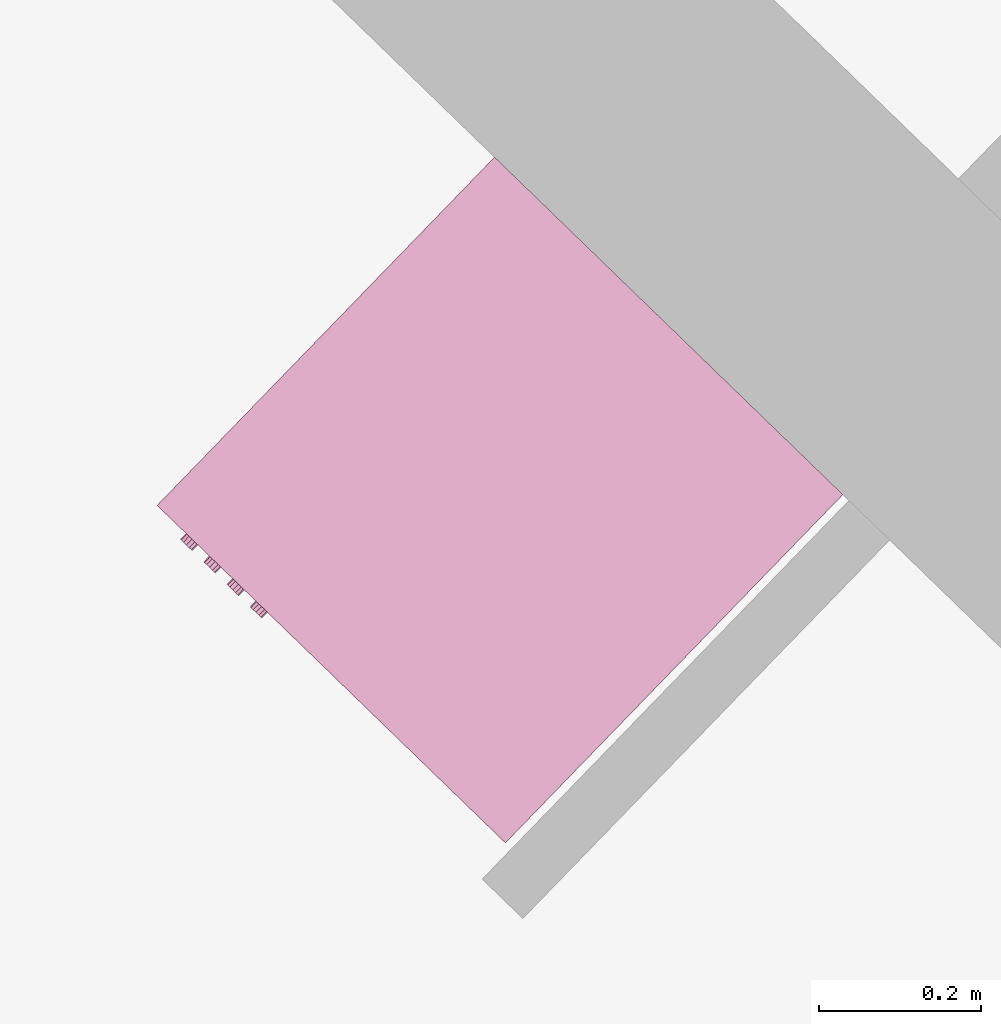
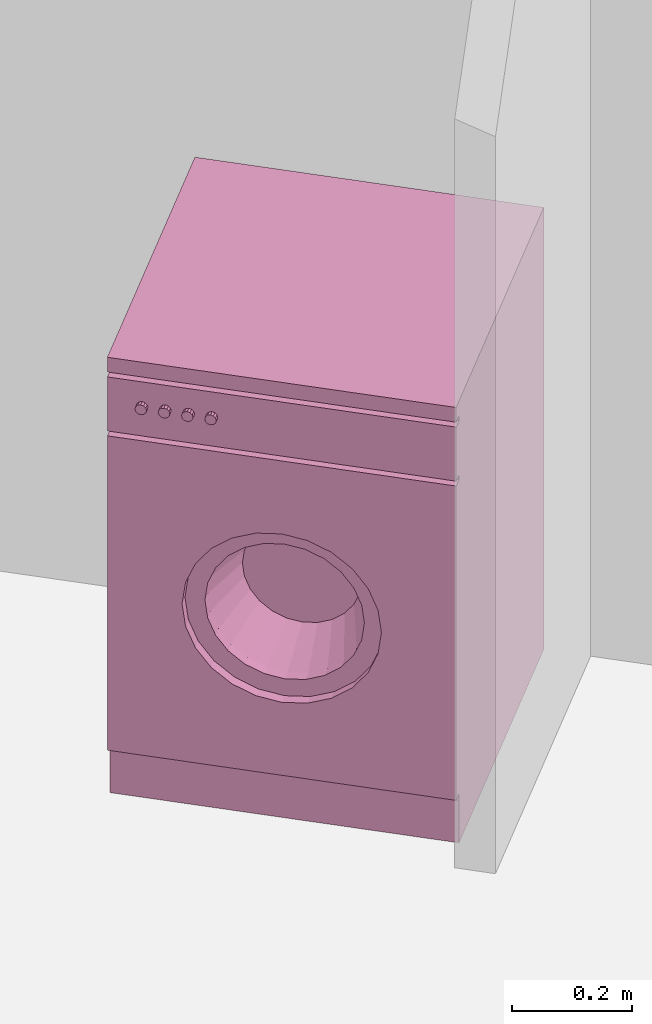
# One storey, part 148 of 195: 1 furnishing.
"""IFC2X3 building model written with IfcOpenShell, lengths in metres."""

from ifc_helpers import new_model, entity, si_unit, converted_unit, derived_unit, money_unit, direction, frame, origin_with_axes, place, context, subcontext, project, spatial, open_shell, faceted_brep, surface_model, source, transform, mapped, type_object, element, save


model = new_model("IFC2X3")

# Units and contexts
model_context = context("Model", 3, precision=1e-05, world=origin_with_axes(), true_north=direction((0.0, 1.0)))
body_context = subcontext(model_context, "Body", "Model", "MODEL_VIEW")
ifc_project = project(units=[si_unit("LENGTHUNIT", "METRE"), si_unit("AREAUNIT", "SQUARE_METRE"), si_unit("VOLUMEUNIT", "CUBIC_METRE"), converted_unit("PLANEANGLEUNIT", "DEGREE", entity("IfcPlaneAngleMeasure", 0.0174532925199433), si_unit("PLANEANGLEUNIT", "RADIAN"), dimensions=[0, 0, 0, 0, 0, 0, 0]), money_unit("CHF"), converted_unit("TIMEUNIT", "Year", entity("IfcTimeMeasure", 31557600.0), si_unit("TIMEUNIT", "SECOND"), dimensions=[0, 0, 1, 0, 0, 0, 0]), si_unit("MASSUNIT", "GRAM", prefix="KILO"), si_unit("THERMODYNAMICTEMPERATUREUNIT", "DEGREE_CELSIUS"), si_unit("LUMINOUSINTENSITYUNIT", "LUMEN"), si_unit("ENERGYUNIT", "JOULE", prefix="MEGA"), derived_unit("THERMALCONDUCTANCEUNIT", [(si_unit("POWERUNIT", "WATT"), 1), (si_unit("LENGTHUNIT", "METRE"), -1), (si_unit("THERMODYNAMICTEMPERATUREUNIT", "KELVIN"), -1)]), derived_unit("SPECIFICHEATCAPACITYUNIT", [(si_unit("ENERGYUNIT", "JOULE"), 1), (si_unit("MASSUNIT", "GRAM", prefix="KILO"), -1), (si_unit("THERMODYNAMICTEMPERATUREUNIT", "KELVIN"), -1)]), derived_unit("MASSDENSITYUNIT", [(si_unit("MASSUNIT", "GRAM", prefix="KILO"), 1), (si_unit("VOLUMEUNIT", "CUBIC_METRE"), -1)])], contexts=[model_context])

# Site, building, storey
site_placement = place(None, origin_with_axes())
site = spatial("IfcSite", under=ifc_project, at=site_placement, Name="Site", CompositionType="ELEMENT")
building_placement = place(site_placement, origin_with_axes())
building = spatial("IfcBuilding", under=site, at=building_placement, Name="Bâtiment", CompositionType="ELEMENT")
storey_placement = place(building_placement, origin_with_axes())
storey = spatial("IfcBuildingStorey", under=building, at=storey_placement, Name="rdc", CompositionType="ELEMENT", Elevation=0.0)

# Furnishing
furnishing_element_type = type_object("IfcFurnishingElementType", Name="Machine à laver")
shared_shape = source(origin_with_axes(), body_context, "Body", "SurfaceModel", [
    faceted_brep([(0.0, 0.02, 0.1), (0.6, 0.02, 0.1), (0.6, 0.0, 0.1), (0.0, 0.0, 0.1), (0.0, 0.02000000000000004, 0.74), (0.6, 0.02000000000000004, 0.74), (0.4714285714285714, 0.02000000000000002, 0.42), (0.4655872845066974, 0.02000000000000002, 0.4643689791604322), (0.448461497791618, 0.02000000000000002, 0.5057142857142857), (0.4212183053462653, 0.02000000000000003, 0.5412183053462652), (0.3857142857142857, 0.02000000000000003, 0.568461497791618), (0.3443689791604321, 0.02000000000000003, 0.5855872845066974), (0.3, 0.02000000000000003, 0.5914285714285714), (0.2556310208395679, 0.02000000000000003, 0.5855872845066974), (0.2142857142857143, 0.02000000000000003, 0.5684614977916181), (0.1787816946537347, 0.02000000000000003, 0.5412183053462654), (0.1515385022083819, 0.02000000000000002, 0.5057142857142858), (0.1344127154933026, 0.02000000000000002, 0.4643689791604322), (0.1285714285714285, 0.02000000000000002, 0.42), (0.1344127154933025, 0.02000000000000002, 0.3756310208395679), (0.1515385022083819, 0.02000000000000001, 0.3342857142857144), (0.1787816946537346, 0.02000000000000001, 0.2987816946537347), (0.2142857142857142, 0.02000000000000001, 0.2715385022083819), (0.2556310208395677, 0.02000000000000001, 0.2544127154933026), (0.2999999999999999, 0.02000000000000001, 0.2485714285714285), (0.344368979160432, 0.02000000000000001, 0.2544127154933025), (0.3857142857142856, 0.02000000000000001, 0.2715385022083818), (0.4212183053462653, 0.02000000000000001, 0.2987816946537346), (0.448461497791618, 0.02000000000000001, 0.3342857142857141), (0.4655872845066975, 0.02000000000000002, 0.3756310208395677), (0.6, 0.0, 0.74), (0.0, 0.0, 0.74), (0.4714285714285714, 0.0, 0.42), (0.4655872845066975, 0.0, 0.3756310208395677), (0.448461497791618, 0.0, 0.3342857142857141), (0.4212183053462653, 0.0, 0.2987816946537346), (0.3857142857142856, 0.0, 0.2715385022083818), (0.344368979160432, 0.0, 0.2544127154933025), (0.2999999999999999, 0.0, 0.2485714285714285), (0.2556310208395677, 0.0, 0.2544127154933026), (0.2142857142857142, 0.0, 0.2715385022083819), (0.1787816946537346, 0.0, 0.2987816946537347), (0.1515385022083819, 0.0, 0.3342857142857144), (0.1344127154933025, 0.0, 0.3756310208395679), (0.1285714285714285, 0.0, 0.42), (0.1344127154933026, 0.0, 0.4643689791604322), (0.1515385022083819, 0.0, 0.5057142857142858), (0.1787816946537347, 0.0, 0.5412183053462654), (0.2142857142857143, 0.0, 0.5684614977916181), (0.2556310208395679, 0.0, 0.5855872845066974), (0.3, 0.0, 0.5914285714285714), (0.3443689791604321, 0.0, 0.5855872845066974), (0.3857142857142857, 0.0, 0.568461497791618), (0.4212183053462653, 0.0, 0.5412183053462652), (0.448461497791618, 0.0, 0.5057142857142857), (0.4655872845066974, 0.0, 0.4643689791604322)], [[[0, 1, 2, 3]], [[0, 4, 5, 1], [6, 7, 8, 9, 10, 11, 12, 13, 14, 15, 16, 17, 18, 19, 20, 21, 22, 23, 24, 25, 26, 27, 28, 29]], [[1, 5, 30, 2]], [[3, 2, 30, 31], [32, 33, 34, 35, 36, 37, 38, 39, 40, 41, 42, 43, 44, 45, 46, 47, 48, 49, 50, 51, 52, 53, 54, 55]], [[4, 0, 3, 31]], [[5, 4, 31, 30]], [[7, 6, 32, 55]], [[8, 7, 55, 54]], [[9, 8, 54, 53]], [[10, 9, 53, 52]], [[11, 10, 52, 51]], [[12, 11, 51, 50]], [[13, 12, 50, 49]], [[14, 13, 49, 48]], [[15, 14, 48, 47]], [[16, 15, 47, 46]], [[17, 16, 46, 45]], [[18, 17, 45, 44]], [[19, 18, 44, 43]], [[20, 19, 43, 42]], [[21, 20, 42, 41]], [[22, 21, 41, 40]], [[23, 22, 40, 39]], [[24, 23, 39, 38]], [[25, 24, 38, 37]], [[26, 25, 37, 36]], [[27, 26, 36, 35]], [[28, 27, 35, 34]], [[29, 28, 34, 33]], [[6, 29, 33, 32]]]),
    faceted_brep([(0.4714285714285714, 0.04000000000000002, 0.42), (0.4655872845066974, 0.04000000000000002, 0.4643689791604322), (0.4655872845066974, 0.02000000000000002, 0.4643689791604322), (0.4714285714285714, 0.02000000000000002, 0.42), (0.4655872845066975, 0.04000000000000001, 0.3756310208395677), (0.448461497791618, 0.04000000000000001, 0.3342857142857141), (0.4212183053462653, 0.04000000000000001, 0.2987816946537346), (0.3857142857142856, 0.04000000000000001, 0.2715385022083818), (0.344368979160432, 0.04000000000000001, 0.2544127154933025), (0.2999999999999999, 0.04000000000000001, 0.2485714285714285), (0.2556310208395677, 0.04000000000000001, 0.2544127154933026), (0.2142857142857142, 0.04000000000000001, 0.2715385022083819), (0.1787816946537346, 0.04000000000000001, 0.2987816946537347), (0.1515385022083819, 0.04000000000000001, 0.3342857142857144), (0.1344127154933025, 0.04000000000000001, 0.3756310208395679), (0.1285714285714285, 0.04000000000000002, 0.42), (0.1344127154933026, 0.04000000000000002, 0.4643689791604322), (0.1515385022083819, 0.04000000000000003, 0.5057142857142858), (0.1787816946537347, 0.04000000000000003, 0.5412183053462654), (0.2142857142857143, 0.04000000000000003, 0.5684614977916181), (0.2556310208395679, 0.04000000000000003, 0.5855872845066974), (0.3, 0.04000000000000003, 0.5914285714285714), (0.3443689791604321, 0.04000000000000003, 0.5855872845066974), (0.3857142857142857, 0.04000000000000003, 0.568461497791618), (0.4212183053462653, 0.04000000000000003, 0.5412183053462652), (0.448461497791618, 0.04000000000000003, 0.5057142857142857), (0.4371428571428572, 0.04000000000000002, 0.42), (0.432469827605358, 0.04000000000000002, 0.4554951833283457), (0.4187691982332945, 0.04000000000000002, 0.4885714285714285), (0.3969746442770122, 0.04000000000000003, 0.5169746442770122), (0.3685714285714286, 0.04000000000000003, 0.5387691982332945), (0.3354951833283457, 0.04000000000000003, 0.552469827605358), (0.3, 0.04000000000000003, 0.5571428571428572), (0.2645048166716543, 0.04000000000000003, 0.552469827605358), (0.2314285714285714, 0.04000000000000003, 0.5387691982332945), (0.2030253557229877, 0.04000000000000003, 0.5169746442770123), (0.1812308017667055, 0.04000000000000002, 0.4885714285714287), (0.167530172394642, 0.04000000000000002, 0.4554951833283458), (0.1628571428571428, 0.04000000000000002, 0.42), (0.167530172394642, 0.04000000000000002, 0.3845048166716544), (0.1812308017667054, 0.04000000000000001, 0.3514285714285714), (0.2030253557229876, 0.04000000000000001, 0.3230253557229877), (0.2314285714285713, 0.04000000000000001, 0.3012308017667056), (0.2645048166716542, 0.04000000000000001, 0.287530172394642), (0.2999999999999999, 0.04000000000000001, 0.2828571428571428), (0.3354951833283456, 0.04000000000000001, 0.287530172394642), (0.3685714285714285, 0.04000000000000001, 0.3012308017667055), (0.3969746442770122, 0.04000000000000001, 0.3230253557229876), (0.4187691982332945, 0.04000000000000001, 0.3514285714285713), (0.432469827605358, 0.04000000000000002, 0.3845048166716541), (0.448461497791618, 0.02000000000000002, 0.5057142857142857), (0.4212183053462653, 0.02000000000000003, 0.5412183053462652), (0.3857142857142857, 0.02000000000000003, 0.568461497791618), (0.3443689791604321, 0.02000000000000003, 0.5855872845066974), (0.3, 0.02000000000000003, 0.5914285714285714), (0.2556310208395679, 0.02000000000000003, 0.5855872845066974), (0.2142857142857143, 0.02000000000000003, 0.5684614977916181), (0.1787816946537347, 0.02000000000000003, 0.5412183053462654), (0.1515385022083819, 0.02000000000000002, 0.5057142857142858), (0.1344127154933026, 0.02000000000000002, 0.4643689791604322), (0.1285714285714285, 0.02000000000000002, 0.42), (0.1344127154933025, 0.02000000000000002, 0.3756310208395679), (0.1515385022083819, 0.02000000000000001, 0.3342857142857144), (0.1787816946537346, 0.02000000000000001, 0.2987816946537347), (0.2142857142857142, 0.02000000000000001, 0.2715385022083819), (0.2556310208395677, 0.02000000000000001, 0.2544127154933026), (0.2999999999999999, 0.02000000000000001, 0.2485714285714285), (0.344368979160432, 0.02000000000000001, 0.2544127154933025), (0.3857142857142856, 0.02000000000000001, 0.2715385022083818), (0.4212183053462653, 0.02000000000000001, 0.2987816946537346), (0.448461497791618, 0.02000000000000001, 0.3342857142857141), (0.4655872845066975, 0.02000000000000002, 0.3756310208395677), (0.4371428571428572, 0.02000000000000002, 0.42), (0.432469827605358, 0.02000000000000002, 0.3845048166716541), (0.4187691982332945, 0.02000000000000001, 0.3514285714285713), (0.3969746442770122, 0.02000000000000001, 0.3230253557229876), (0.3685714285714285, 0.02000000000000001, 0.3012308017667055), (0.3354951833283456, 0.02000000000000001, 0.287530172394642), (0.2999999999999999, 0.02000000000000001, 0.2828571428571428), (0.2645048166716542, 0.02000000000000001, 0.287530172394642), (0.2314285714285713, 0.02000000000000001, 0.3012308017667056), (0.2030253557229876, 0.02000000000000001, 0.3230253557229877), (0.1812308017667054, 0.02000000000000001, 0.3514285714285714), (0.167530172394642, 0.02000000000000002, 0.3845048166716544), (0.1628571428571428, 0.02000000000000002, 0.42), (0.167530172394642, 0.02000000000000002, 0.4554951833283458), (0.1812308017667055, 0.02000000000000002, 0.4885714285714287), (0.2030253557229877, 0.02000000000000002, 0.5169746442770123), (0.2314285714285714, 0.02000000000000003, 0.5387691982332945), (0.2645048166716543, 0.02000000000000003, 0.552469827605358), (0.3, 0.02000000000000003, 0.5571428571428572), (0.3354951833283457, 0.02000000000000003, 0.552469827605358), (0.3685714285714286, 0.02000000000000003, 0.5387691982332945), (0.3969746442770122, 0.02000000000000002, 0.5169746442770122), (0.4187691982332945, 0.02000000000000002, 0.4885714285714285), (0.432469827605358, 0.02000000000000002, 0.4554951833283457)], [[[0, 1, 2, 3]], [[0, 4, 5, 6, 7, 8, 9, 10, 11, 12, 13, 14, 15, 16, 17, 18, 19, 20, 21, 22, 23, 24, 25, 1], [26, 27, 28, 29, 30, 31, 32, 33, 34, 35, 36, 37, 38, 39, 40, 41, 42, 43, 44, 45, 46, 47, 48, 49]], [[1, 25, 50, 2]], [[3, 2, 50, 51, 52, 53, 54, 55, 56, 57, 58, 59, 60, 61, 62, 63, 64, 65, 66, 67, 68, 69, 70, 71], [72, 73, 74, 75, 76, 77, 78, 79, 80, 81, 82, 83, 84, 85, 86, 87, 88, 89, 90, 91, 92, 93, 94, 95]], [[4, 0, 3, 71]], [[5, 4, 71, 70]], [[6, 5, 70, 69]], [[7, 6, 69, 68]], [[8, 7, 68, 67]], [[9, 8, 67, 66]], [[10, 9, 66, 65]], [[11, 10, 65, 64]], [[12, 11, 64, 63]], [[13, 12, 63, 62]], [[14, 13, 62, 61]], [[15, 14, 61, 60]], [[16, 15, 60, 59]], [[17, 16, 59, 58]], [[18, 17, 58, 57]], [[19, 18, 57, 56]], [[20, 19, 56, 55]], [[21, 20, 55, 54]], [[22, 21, 54, 53]], [[23, 22, 53, 52]], [[24, 23, 52, 51]], [[25, 24, 51, 50]], [[27, 26, 72, 95]], [[28, 27, 95, 94]], [[29, 28, 94, 93]], [[30, 29, 93, 92]], [[31, 30, 92, 91]], [[32, 31, 91, 90]], [[33, 32, 90, 89]], [[34, 33, 89, 88]], [[35, 34, 88, 87]], [[36, 35, 87, 86]], [[37, 36, 86, 85]], [[38, 37, 85, 84]], [[39, 38, 84, 83]], [[40, 39, 83, 82]], [[41, 40, 82, 81]], [[42, 41, 81, 80]], [[43, 42, 80, 79]], [[44, 43, 79, 78]], [[45, 44, 78, 77]], [[46, 45, 77, 76]], [[47, 46, 76, 75]], [[48, 47, 75, 74]], [[49, 48, 74, 73]], [[26, 49, 73, 72]]]),
    surface_model("IfcShellBasedSurfaceModel", [(0.2645048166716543, 0.03999999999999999, 0.552469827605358), (0.3, 0.03999999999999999, 0.5571428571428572), (0.3, 0.14, 0.5228571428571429), (0.2733786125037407, 0.14, 0.5193523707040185), (0.3354951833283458, 0.03999999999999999, 0.552469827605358), (0.3266213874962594, 0.14, 0.5193523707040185), (0.3514285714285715, 0.14, 0.5090768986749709), (0.3727309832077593, 0.14, 0.4927309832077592), (0.3890768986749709, 0.14, 0.4714285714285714), (0.3993523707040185, 0.14, 0.4466213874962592), (0.4028571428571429, 0.14, 0.42), (0.3993523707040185, 0.14, 0.3933786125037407), (0.3890768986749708, 0.14, 0.3685714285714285), (0.3727309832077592, 0.14, 0.3472690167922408), (0.3514285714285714, 0.14, 0.3309231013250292), (0.3266213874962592, 0.14, 0.3206476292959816), (0.2999999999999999, 0.14, 0.3171428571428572), (0.2733786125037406, 0.14, 0.3206476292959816), (0.2485714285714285, 0.14, 0.3309231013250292), (0.2272690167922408, 0.14, 0.3472690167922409), (0.2109231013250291, 0.14, 0.3685714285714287), (0.2006476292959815, 0.14, 0.3933786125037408), (0.1971428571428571, 0.14, 0.4200000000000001), (0.2006476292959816, 0.14, 0.4466213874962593), (0.2109231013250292, 0.14, 0.4714285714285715), (0.2272690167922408, 0.14, 0.4927309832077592), (0.2485714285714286, 0.14, 0.5090768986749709), (0.2314285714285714, 0.03999999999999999, 0.5387691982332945), (0.3685714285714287, 0.03999999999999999, 0.5387691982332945), (0.3969746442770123, 0.03999999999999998, 0.5169746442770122), (0.4187691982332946, 0.03999999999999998, 0.4885714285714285), (0.432469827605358, 0.03999999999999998, 0.4554951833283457), (0.4371428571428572, 0.03999999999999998, 0.4199999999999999), (0.432469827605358, 0.03999999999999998, 0.3845048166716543), (0.4187691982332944, 0.03999999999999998, 0.3514285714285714), (0.3969746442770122, 0.03999999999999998, 0.3230253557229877), (0.3685714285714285, 0.03999999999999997, 0.3012308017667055), (0.3354951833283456, 0.03999999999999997, 0.2875301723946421), (0.2999999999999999, 0.03999999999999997, 0.2828571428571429), (0.2645048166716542, 0.03999999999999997, 0.2875301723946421), (0.2314285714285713, 0.03999999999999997, 0.3012308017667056), (0.2030253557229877, 0.03999999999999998, 0.3230253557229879), (0.1812308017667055, 0.03999999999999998, 0.3514285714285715), (0.167530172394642, 0.03999999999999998, 0.3845048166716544), (0.1628571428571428, 0.03999999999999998, 0.4200000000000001), (0.167530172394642, 0.03999999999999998, 0.4554951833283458), (0.1812308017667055, 0.03999999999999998, 0.4885714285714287), (0.2030253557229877, 0.03999999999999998, 0.5169746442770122)], [open_shell([[[0, 1, 2, 3]], [[1, 4, 5, 2]], [[2, 5, 6, 7, 8, 9, 10, 11, 12, 13, 14, 15, 16, 17, 18, 19, 20, 21, 22, 23, 24, 25, 26, 3]], [[27, 0, 3, 26]], [[4, 28, 6, 5]], [[28, 29, 7, 6]], [[29, 30, 8, 7]], [[30, 31, 9, 8]], [[31, 32, 10, 9]], [[32, 33, 11, 10]], [[33, 34, 12, 11]], [[34, 35, 13, 12]], [[35, 36, 14, 13]], [[36, 37, 15, 14]], [[37, 38, 16, 15]], [[38, 39, 17, 16]], [[39, 40, 18, 17]], [[40, 41, 19, 18]], [[41, 42, 20, 19]], [[42, 43, 21, 20]], [[43, 44, 22, 21]], [[44, 45, 23, 22]], [[45, 46, 24, 23]], [[46, 47, 25, 24]], [[47, 27, 26, 25]]])]),
    surface_model("IfcShellBasedSurfaceModel", [(0.0, 0.02, 0.1), (0.0, 0.02000000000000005, 0.87), (0.0, 0.6, 0.87), (0.0, 0.6, 0.09999999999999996)], [open_shell([[[0, 1, 2, 3]]])]),
    surface_model("IfcShellBasedSurfaceModel", [(0.6, 0.01999999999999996, 0.1), (0.6, 0.02000000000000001, 0.87), (0.6, 0.5999999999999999, 0.87), (0.6, 0.5999999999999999, 0.09999999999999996)], [open_shell([[[0, 1, 2, 3]]])]),
    surface_model("IfcShellBasedSurfaceModel", [(0.0, 0.6, 0.1), (0.0, 0.6, 0.87), (0.6, 0.6, 0.87), (0.6, 0.6, 0.1)], [open_shell([[[0, 1, 2, 3]]])]),
    faceted_brep([(0.0, 0.02, 0.0), (0.6, 0.02, 0.0), (0.6, 0.02, 0.1), (0.0, 0.02, 0.1), (0.0, 0.6, 0.0), (0.6, 0.6, 0.0), (0.6, 0.6, 0.1), (0.0, 0.6, 0.1)], [[[0, 1, 2, 3]], [[0, 4, 5, 1]], [[1, 5, 6, 2]], [[3, 2, 6, 7]], [[4, 0, 3, 7]], [[5, 4, 7, 6]]]),
    faceted_brep([(0.0, 0.02, 0.75), (0.6, 0.02, 0.75), (0.6, 0.0, 0.75), (0.0, 0.0, 0.75), (0.0, 0.02000000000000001, 0.86), (0.6, 0.02000000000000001, 0.86), (0.6, 0.0, 0.86), (0.0, 0.0, 0.86)], [[[0, 1, 2, 3]], [[0, 4, 5, 1]], [[1, 5, 6, 2]], [[3, 2, 6, 7]], [[4, 0, 3, 7]], [[5, 4, 7, 6]]]),
    surface_model("IfcShellBasedSurfaceModel", [(0.0, 0.02, 0.74), (0.0, 0.02000000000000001, 0.87), (0.6, 0.02000000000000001, 0.87), (0.6, 0.02, 0.74)], [open_shell([[[0, 1, 2, 3]]])]),
    faceted_brep([(0.0, 0.0, 0.87), (0.6, 0.0, 0.87), (0.6, 0.0, 0.9), (0.0, 0.0, 0.9), (0.0, 0.6, 0.87), (0.6, 0.6, 0.87), (0.6, 0.6, 0.9), (0.0, 0.6, 0.9)], [[[0, 1, 2, 3]], [[0, 4, 5, 1]], [[1, 5, 6, 2]], [[3, 2, 6, 7]], [[4, 0, 3, 7]], [[5, 4, 7, 6]]]),
    faceted_brep([(0.06866025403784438, 0.0, 0.8049999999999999), (0.06499999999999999, 0.0, 0.8013397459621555), (0.05999999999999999, 0.0, 0.7999999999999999), (0.05499999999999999, 0.0, 0.8013397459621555), (0.05133974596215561, 0.0, 0.8049999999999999), (0.05, 0.0, 0.8099999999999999), (0.05133974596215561, 0.0, 0.815), (0.055, 0.0, 0.8186602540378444), (0.06, 0.0, 0.82), (0.065, 0.0, 0.8186602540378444), (0.06866025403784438, 0.0, 0.815), (0.06999999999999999, 0.0, 0.8099999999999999), (0.06866025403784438, -0.01, 0.8049999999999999), (0.06499999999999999, -0.01, 0.8013397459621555), (0.05999999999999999, -0.01, 0.7999999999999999), (0.05499999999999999, -0.01, 0.8013397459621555), (0.05133974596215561, -0.01, 0.8049999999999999), (0.05, -0.01, 0.8099999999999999), (0.05133974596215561, -0.01, 0.815), (0.055, -0.01, 0.8186602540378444), (0.06, -0.01, 0.82), (0.065, -0.01, 0.8186602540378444), (0.06866025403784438, -0.01, 0.815), (0.06999999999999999, -0.01, 0.8099999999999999)], [[[0, 1, 2, 3, 4, 5, 6, 7, 8, 9, 10, 11]], [[1, 0, 12, 13]], [[2, 1, 13, 14]], [[3, 2, 14, 15]], [[4, 3, 15, 16]], [[5, 4, 16, 17]], [[6, 5, 17, 18]], [[7, 6, 18, 19]], [[8, 7, 19, 20]], [[9, 8, 20, 21]], [[10, 9, 21, 22]], [[11, 10, 22, 23]], [[0, 11, 23, 12]], [[12, 23, 22, 21, 20, 19, 18, 17, 16, 15, 14, 13]]]),
    faceted_brep([(0.1086602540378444, 0.0, 0.8049999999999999), (0.105, 0.0, 0.8013397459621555), (0.09999999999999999, 0.0, 0.7999999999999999), (0.095, 0.0, 0.8013397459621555), (0.09133974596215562, 0.0, 0.8049999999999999), (0.09000000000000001, 0.0, 0.8099999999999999), (0.09133974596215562, 0.0, 0.815), (0.095, 0.0, 0.8186602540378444), (0.1, 0.0, 0.82), (0.105, 0.0, 0.8186602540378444), (0.1086602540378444, 0.0, 0.815), (0.11, 0.0, 0.8099999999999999), (0.1086602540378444, -0.01, 0.8049999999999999), (0.105, -0.01, 0.8013397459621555), (0.09999999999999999, -0.01, 0.7999999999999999), (0.095, -0.01, 0.8013397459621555), (0.09133974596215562, -0.01, 0.8049999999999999), (0.09000000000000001, -0.01, 0.8099999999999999), (0.09133974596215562, -0.01, 0.815), (0.095, -0.01, 0.8186602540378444), (0.1, -0.01, 0.82), (0.105, -0.01, 0.8186602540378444), (0.1086602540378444, -0.01, 0.815), (0.11, -0.01, 0.8099999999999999)], [[[0, 1, 2, 3, 4, 5, 6, 7, 8, 9, 10, 11]], [[1, 0, 12, 13]], [[2, 1, 13, 14]], [[3, 2, 14, 15]], [[4, 3, 15, 16]], [[5, 4, 16, 17]], [[6, 5, 17, 18]], [[7, 6, 18, 19]], [[8, 7, 19, 20]], [[9, 8, 20, 21]], [[10, 9, 21, 22]], [[11, 10, 22, 23]], [[0, 11, 23, 12]], [[12, 23, 22, 21, 20, 19, 18, 17, 16, 15, 14, 13]]]),
    faceted_brep([(0.1486602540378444, 0.0, 0.8049999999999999), (0.145, 0.0, 0.8013397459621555), (0.14, 0.0, 0.7999999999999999), (0.135, 0.0, 0.8013397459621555), (0.1313397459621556, 0.0, 0.8049999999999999), (0.13, 0.0, 0.8099999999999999), (0.1313397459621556, 0.0, 0.815), (0.135, 0.0, 0.8186602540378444), (0.14, 0.0, 0.82), (0.145, 0.0, 0.8186602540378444), (0.1486602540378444, 0.0, 0.815), (0.15, 0.0, 0.8099999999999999), (0.1486602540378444, -0.01, 0.8049999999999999), (0.145, -0.01, 0.8013397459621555), (0.14, -0.01, 0.7999999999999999), (0.135, -0.01, 0.8013397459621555), (0.1313397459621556, -0.01, 0.8049999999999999), (0.13, -0.01, 0.8099999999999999), (0.1313397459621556, -0.01, 0.815), (0.135, -0.01, 0.8186602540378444), (0.14, -0.01, 0.82), (0.145, -0.01, 0.8186602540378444), (0.1486602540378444, -0.01, 0.815), (0.15, -0.01, 0.8099999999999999)], [[[0, 1, 2, 3, 4, 5, 6, 7, 8, 9, 10, 11]], [[1, 0, 12, 13]], [[2, 1, 13, 14]], [[3, 2, 14, 15]], [[4, 3, 15, 16]], [[5, 4, 16, 17]], [[6, 5, 17, 18]], [[7, 6, 18, 19]], [[8, 7, 19, 20]], [[9, 8, 20, 21]], [[10, 9, 21, 22]], [[11, 10, 22, 23]], [[0, 11, 23, 12]], [[12, 23, 22, 21, 20, 19, 18, 17, 16, 15, 14, 13]]]),
    faceted_brep([(0.1886602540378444, 0.0, 0.8049999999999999), (0.185, 0.0, 0.8013397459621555), (0.18, 0.0, 0.7999999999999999), (0.175, 0.0, 0.8013397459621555), (0.1713397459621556, 0.0, 0.8049999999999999), (0.17, 0.0, 0.8099999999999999), (0.1713397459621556, 0.0, 0.815), (0.175, 0.0, 0.8186602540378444), (0.18, 0.0, 0.82), (0.185, 0.0, 0.8186602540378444), (0.1886602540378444, 0.0, 0.815), (0.19, 0.0, 0.8099999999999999), (0.1886602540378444, -0.01, 0.8049999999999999), (0.185, -0.01, 0.8013397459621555), (0.18, -0.01, 0.7999999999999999), (0.175, -0.01, 0.8013397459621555), (0.1713397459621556, -0.01, 0.8049999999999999), (0.17, -0.01, 0.8099999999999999), (0.1713397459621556, -0.01, 0.815), (0.175, -0.01, 0.8186602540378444), (0.18, -0.01, 0.82), (0.185, -0.01, 0.8186602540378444), (0.1886602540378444, -0.01, 0.815), (0.19, -0.01, 0.8099999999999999)], [[[0, 1, 2, 3, 4, 5, 6, 7, 8, 9, 10, 11]], [[1, 0, 12, 13]], [[2, 1, 13, 14]], [[3, 2, 14, 15]], [[4, 3, 15, 16]], [[5, 4, 16, 17]], [[6, 5, 17, 18]], [[7, 6, 18, 19]], [[8, 7, 19, 20]], [[9, 8, 20, 21]], [[10, 9, 21, 22]], [[11, 10, 22, 23]], [[0, 11, 23, 12]], [[12, 23, 22, 21, 20, 19, 18, 17, 16, 15, 14, 13]]]),
])
furnishing_placement = place(storey_placement, frame((9524.718829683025, -1064.586913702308, 57.7), z_axis=(0.0, 0.0, 1.0), x_axis=(0.7181763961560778, -0.6958610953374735, 0.0)))
element("IfcFurnishingElement", 1, at=furnishing_placement, inside=storey, type_object=furnishing_element_type, Name="Obj.-019", context=body_context, shape_type="MappedRepresentation", body=[
    mapped(shared_shape, transform((0.0, 0.0, 0.0))),
])

save(model, "model.ifc")
